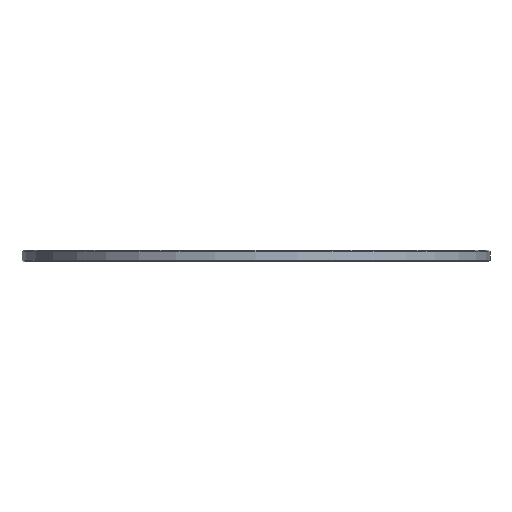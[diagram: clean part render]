
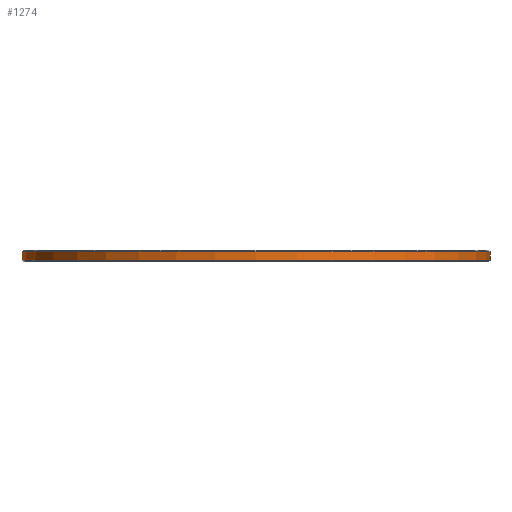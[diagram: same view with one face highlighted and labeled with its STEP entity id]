
A CAD part, top view. The second image highlights one B-rep face of the part: STEP entity #1274.
In plain terms, the highlighted cylindrical face has radius 652.5 mm (diameter 1305 mm), a full revolution.
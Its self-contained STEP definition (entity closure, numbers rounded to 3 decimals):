
#246=ORIENTED_EDGE('',*,*,#432,.T.);
#247=ORIENTED_EDGE('',*,*,#433,.T.);
#432=EDGE_CURVE('',#552,#552,#672,.F.);
#433=EDGE_CURVE('',#553,#553,#673,.T.);
#552=VERTEX_POINT('',#2240);
#553=VERTEX_POINT('',#2242);
#672=CIRCLE('',#1490,652.5);
#673=CIRCLE('',#1491,652.5);
#846=EDGE_LOOP('',(#246));
#847=EDGE_LOOP('',(#247));
#1086=FACE_BOUND('',#846,.T.);
#1087=FACE_BOUND('',#847,.T.);
#1190=CYLINDRICAL_SURFACE('',#1489,652.5);
#1274=ADVANCED_FACE('',(#1086,#1087),#1190,.T.);
#1489=AXIS2_PLACEMENT_3D('',#2238,#1895,#1896);
#1490=AXIS2_PLACEMENT_3D('',#2239,#1897,#1898);
#1491=AXIS2_PLACEMENT_3D('',#2241,#1899,#1900);
#1895=DIRECTION('',(0.,-1.,0.));
#1896=DIRECTION('',(0.,0.,-1.));
#1897=DIRECTION('',(0.,1.,0.));
#1898=DIRECTION('',(0.,0.,1.));
#1899=DIRECTION('',(0.,1.,0.));
#1900=DIRECTION('',(0.,0.,1.));
#2238=CARTESIAN_POINT('',(0.,31.,0.));
#2239=CARTESIAN_POINT('',(0.,28.,0.));
#2240=CARTESIAN_POINT('',(0.,28.,652.5));
#2241=CARTESIAN_POINT('',(0.,3.,0.));
#2242=CARTESIAN_POINT('',(0.,3.,652.5));
